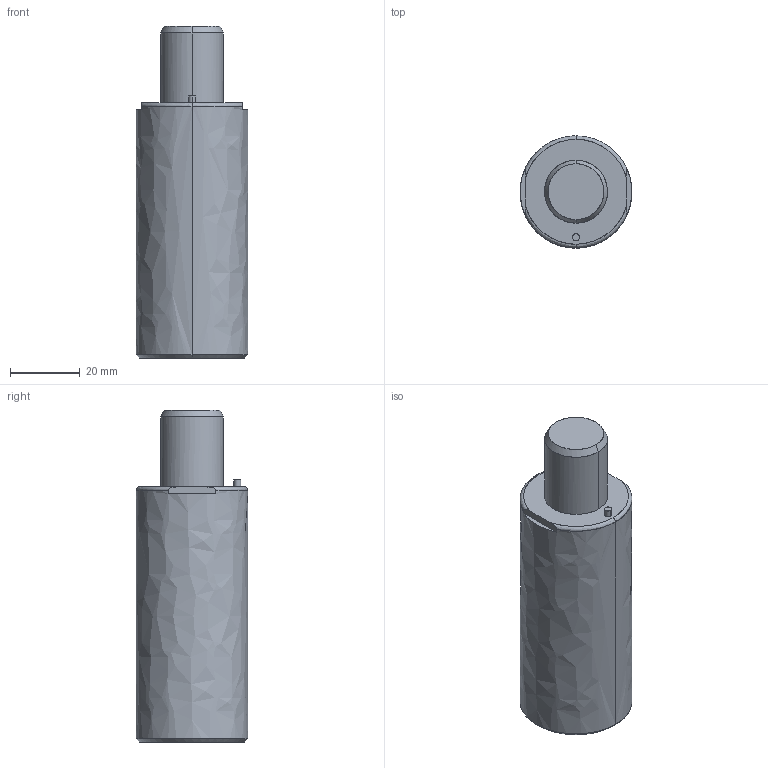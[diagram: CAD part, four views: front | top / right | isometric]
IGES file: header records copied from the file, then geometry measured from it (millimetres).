
Global section: file name: E:\UnigraphicsGraphicData\MISUMI_PRESS-PARTS\IGES\3d_gsx32-20_03972_r00.igs; native system: NX V5.0; preprocessor: UGS NX IGES V5.0; author: MISUMI; date: 20110105.160821; units: millimetre
Bounding box: 32 x 32 x 95 mm (x, y, z)
Surface area: 10946.4 mm2 (no closed solid volume)
Topology: 0 solids, 0 shells, 45 faces, 308 edges, 304 vertices
Faces by surface type: bspline 45
